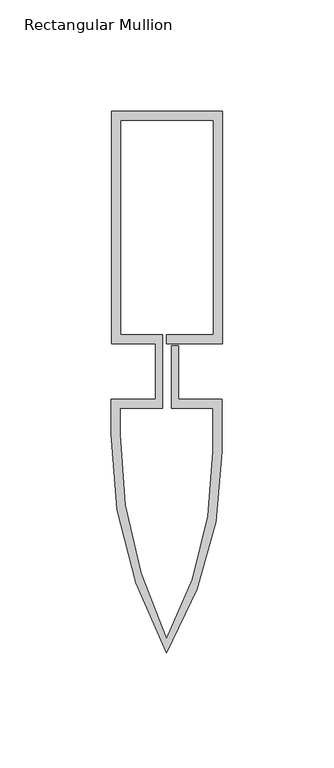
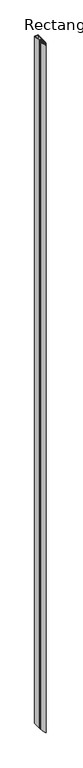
"""IFC4 building model written with IfcOpenShell, lengths in millimetres: member geometry, Rectangular Mullion : Reynaers_CW-50_Mullion-Transom_Vertical_104.5mm_Facecap-05."""

from ifc_helpers import new_model, si_unit, point, frame, frame_2d, origin, place, context, project, spatial, polyline, circle_curve, trimmed, segment, composite_curve, outline, extrude, source, transform, mapped, element, save


def rectangular_mullion_69731979(model_context):
    return source(origin(), model_context, "Body", "SweptSolid", [
        extrude(outline(composite_curve([segment(polyline([(-24.8004059, 117.0), (25.1995941, 117.0), (25.1995941, 12.5), (0.0, 12.5), (0.0, 16.5), (21.1995941, 16.5), (21.1995941, 113.0), (-20.8004059, 113.0), (-20.8004059, 16.5), (-1.9004059, 16.5), (-1.9004059, -16.5), (-20.994845, -16.5), (-20.994845, -28.2355063)]), True, "CONTINUOUS"), segment(trimmed(circle_curve(frame_2d((191.2554764, -28.2355063)), 212.2503214), [point((-20.994845, -28.2355063))], [point((0.0, -120.2764846))], True, "CARTESIAN"), True, "CONTINUOUS"), segment(trimmed(circle_curve(frame_2d((-158.432152, -36.0547506)), 179.426997), [point((0.0, -120.2764846))], [point((20.994845, -36.0547506))], True, "CARTESIAN"), True, "CONTINUOUS"), segment(polyline([(20.994845, -36.0547506), (20.994845, -16.5), (2.2995941, -16.5), (2.2995941, 11.5), (5.2995941, 11.5), (5.2995941, -12.5), (24.994845, -12.5), (24.994845, -36.0195976)]), True, "CONTINUOUS"), segment(trimmed(circle_curve(frame_2d((-151.2704106, -36.0195976)), 176.2652556), [point((24.994845, -36.0195976))], [point((0.0, -126.5))], False, "CARTESIAN"), True, "CONTINUOUS"), segment(trimmed(circle_curve(frame_2d((181.1469577, -28.111878)), 206.1418028), [point((0.0, -126.5))], [point((-24.994845, -28.111878))], False, "CARTESIAN"), True, "CONTINUOUS"), segment(polyline([(-24.994845, -28.111878), (-24.994845, -12.5), (-4.9004059, -12.5), (-4.9004059, 12.5), (-24.8004059, 12.5), (-24.8004059, 117.0)]), True, "CONTINUOUS")], self_intersect=False)), frame((0.0, 0.0, -10400.0), z_axis=(0.0, 0.0, 1.0), x_axis=(1.0, 0.0, 0.0)), (0.0, 0.0, 1.0), 10400.0),
    ])


if __name__ == "__main__":
    model = new_model("IFC4")
    model_context = context("Model", 3, world=origin())
    ifc_project = project(units=[si_unit("LENGTHUNIT", "METRE", prefix="MILLI")], contexts=[model_context])
    site = spatial("IfcSite", under=ifc_project)
    building = spatial("IfcBuilding", under=site)
    placement = place(None, origin())
    rectangular_mullion_shape = rectangular_mullion_69731979(model_context)
    element("IfcMember", 1, ObjectType="Rectangular Mullion : Reynaers_CW-50_Mullion-Transom_Vertical_104.5mm_Facecap-05", at=placement, inside=building, context=model_context, shape_type="MappedRepresentation", body=[
        mapped(rectangular_mullion_shape, transform((0.0, 0.0, 0.0), x_axis=(1.0, 0.0, 0.0), y_axis=(0.0, 1.0, 0.0), z_axis=(0.0, 0.0, 1.0))),
    ])
    save(model, "model.ifc")
